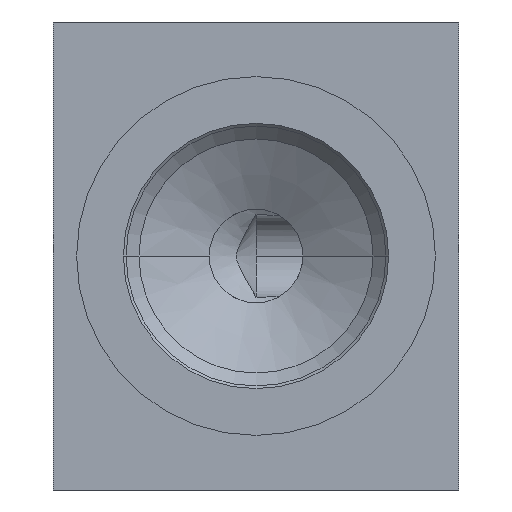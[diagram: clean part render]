
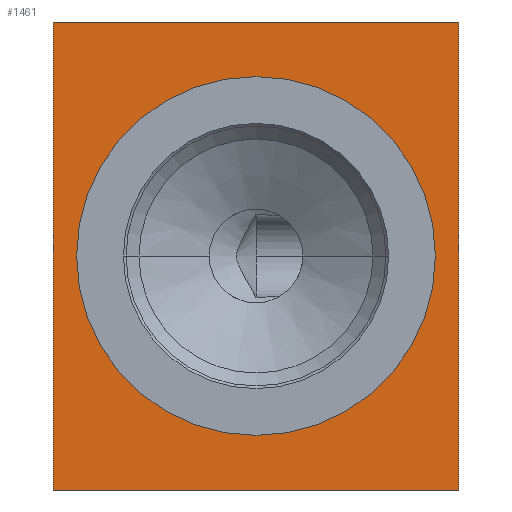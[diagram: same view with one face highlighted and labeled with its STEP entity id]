
A CAD part, left-side view. The second image highlights one B-rep face of the part: STEP entity #1461.
In plain terms, the highlighted planar face has unit normal (-1, 0, 0).
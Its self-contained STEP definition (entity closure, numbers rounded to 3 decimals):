
#40=DIRECTION('',(0.,-1.,0.));
#41=VECTOR('',#40,26.);
#42=CARTESIAN_POINT('',(0.,26.,0.));
#43=LINE('',#42,#41);
#47=DIRECTION('',(0.,0.,1.));
#48=VECTOR('',#47,30.);
#49=CARTESIAN_POINT('',(0.,0.,0.));
#50=LINE('',#49,#48);
#150=DIRECTION('',(0.,0.,1.));
#151=VECTOR('',#150,30.);
#152=CARTESIAN_POINT('',(0.,26.,0.));
#153=LINE('',#152,#151);
#157=CARTESIAN_POINT('',(0.,13.,15.));
#158=DIRECTION('',(1.,0.,0.));
#159=DIRECTION('',(0.,-1.,0.));
#160=AXIS2_PLACEMENT_3D('',#157,#158,#159);
#165=CARTESIAN_POINT('',(0.,13.,15.));
#166=DIRECTION('',(1.,0.,0.));
#167=DIRECTION('',(0.,1.,0.));
#168=AXIS2_PLACEMENT_3D('',#165,#166,#167);
#274=DIRECTION('',(0.,-1.,0.));
#275=VECTOR('',#274,26.);
#276=CARTESIAN_POINT('',(0.,26.,30.));
#277=LINE('',#276,#275);
#1221=CARTESIAN_POINT('',(0.,0.,0.));
#1223=VERTEX_POINT('',#1221);
#1227=CARTESIAN_POINT('',(0.,26.,0.));
#1228=VERTEX_POINT('',#1227);
#1229=CARTESIAN_POINT('',(0.,0.,30.));
#1231=VERTEX_POINT('',#1229);
#1235=CARTESIAN_POINT('',(0.,26.,30.));
#1236=VERTEX_POINT('',#1235);
#1301=CARTESIAN_POINT('',(0.,1.5,15.));
#1302=VERTEX_POINT('',#1301);
#1303=CARTESIAN_POINT('',(0.,24.5,15.));
#1304=VERTEX_POINT('',#1303);
#1442=CARTESIAN_POINT('',(0.,26.,0.));
#1443=DIRECTION('',(-1.,0.,0.));
#1444=DIRECTION('',(0.,-1.,0.));
#1445=AXIS2_PLACEMENT_3D('',#1442,#1443,#1444);
#1446=PLANE('',#1445);
#1447=ORIENTED_EDGE('',*,*,#1386,.F.);
#1449=ORIENTED_EDGE('',*,*,#1448,.T.);
#1451=ORIENTED_EDGE('',*,*,#1450,.T.);
#1452=ORIENTED_EDGE('',*,*,#1397,.F.);
#1453=EDGE_LOOP('',(#1447,#1449,#1451,#1452));
#1454=FACE_OUTER_BOUND('',#1453,.F.);
#1456=ORIENTED_EDGE('',*,*,#1455,.F.);
#1458=ORIENTED_EDGE('',*,*,#1457,.F.);
#1459=EDGE_LOOP('',(#1456,#1458));
#1460=FACE_BOUND('',#1459,.F.);
#161=CIRCLE('',#160,11.5);
#169=CIRCLE('',#168,11.5);
#1386=EDGE_CURVE('',#1228,#1223,#43,.T.);
#1397=EDGE_CURVE('',#1223,#1231,#50,.T.);
#1448=EDGE_CURVE('',#1228,#1236,#153,.T.);
#1450=EDGE_CURVE('',#1236,#1231,#277,.T.);
#1455=EDGE_CURVE('',#1302,#1304,#161,.T.);
#1457=EDGE_CURVE('',#1304,#1302,#169,.T.);
#1461=ADVANCED_FACE('',(#1454,#1460),#1446,.T.);
